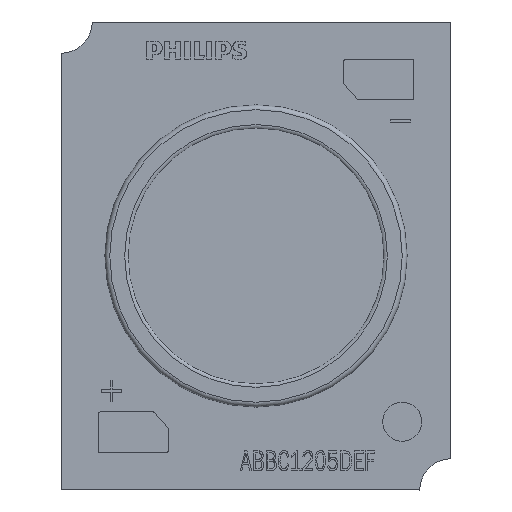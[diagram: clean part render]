
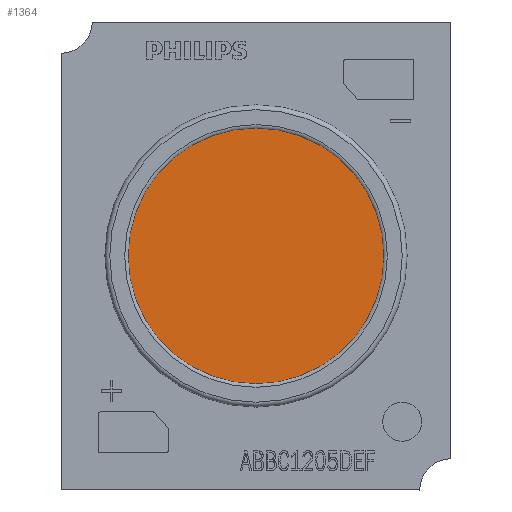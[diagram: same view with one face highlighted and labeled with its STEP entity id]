
A CAD part, top view. The second image highlights one B-rep face of the part: STEP entity #1364.
In plain terms, the highlighted planar face has unit normal (0, 0, 1).
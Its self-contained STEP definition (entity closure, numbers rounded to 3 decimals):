
#915=FACE_OUTER_BOUND('',#2299,.T.);
#1364=ADVANCED_FACE('',(#915),#1763,.T.);
#1763=PLANE('',#9402);
#2299=EDGE_LOOP('',(#4832));
#2360=CIRCLE('',#9401,6.563);
#4832=ORIENTED_EDGE('',*,*,#6901,.T.);
#5663=VERTEX_POINT('',#15033);
#6901=EDGE_CURVE('',#5663,#5663,#2360,.T.);
#9401=AXIS2_PLACEMENT_3D('',#15032,#11387,#11388);
#9402=AXIS2_PLACEMENT_3D('',#15034,#11389,#11390);
#11387=DIRECTION('',(0.,0.,1.));
#11388=DIRECTION('',(-1.,0.,0.));
#11389=DIRECTION('',(0.,0.,1.));
#11390=DIRECTION('',(-1.,0.,0.));
#15032=CARTESIAN_POINT('',(0.,0.,1.53));
#15033=CARTESIAN_POINT('',(-6.563,0.,1.53));
#15034=CARTESIAN_POINT('',(0.,0.,1.53));
